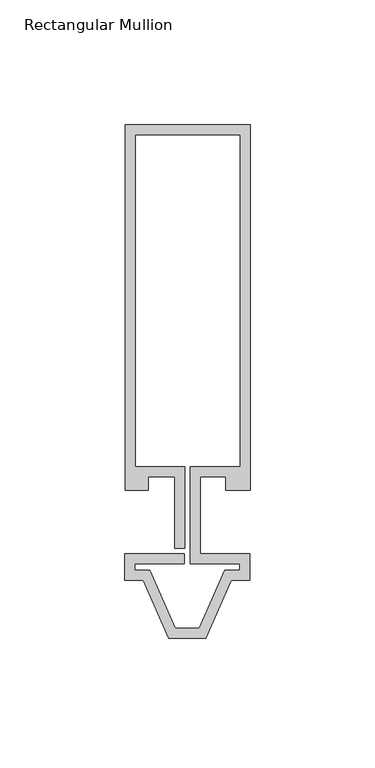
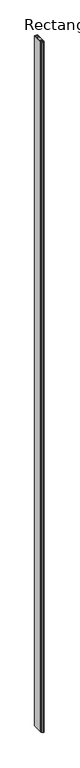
"""IFC4 building model written with IfcOpenShell, lengths in millimetres: member geometry, Rectangular Mullion : Reynaers_CW-50_Transom-Transom_Vertical_146.5mm_Facecap-04."""

from ifc_helpers import new_model, si_unit, frame, origin, place, context, project, spatial, polyline, outline, extrude, source, transform, mapped, element, save


def rectangular_mullion_58ca4ded(model_context):
    return source(origin(), model_context, "Body", "SweptSolid", [
        extrude(outline(polyline([(25.1995941, 12.7331291), (15.499, 12.7331291), (15.499, 18.1331291), (5.2995941, 18.1331291), (5.2995941, -12.7331291), (24.994845, -12.7331291), (24.994845, -23.3331291), (17.6543638, -23.3331291), (7.3695812, -46.4331291), (-7.3695812, -46.4331291), (-17.6543638, -23.3331291), (-24.994845, -23.3331291), (-24.994845, -12.7331291), (-1.0995941, -12.7331291), (-1.0995941, -16.7331291), (-20.994845, -16.7331291), (-20.994845, -19.3331291), (-15.0567334, -19.3331291), (-4.7719508, -42.4331291), (4.7719508, -42.4331291), (15.0567334, -19.3331291), (20.994845, -19.3331291), (20.994845, -16.7331291), (1.2995941, -16.7331291), (1.2995941, 22.1331291), (21.1995941, 22.1331291), (21.1995941, 155.2331291), (-20.8004059, 155.2331291), (-20.8004059, 22.1331291), (-0.9004059, 22.1331291), (-0.9004059, -10.5), (-4.9004059, -10.5), (-4.9004059, 18.1331291), (-15.499, 18.1331291), (-15.499, 12.7331291), (-24.8004059, 12.7331291), (-24.8004059, 159.2331291), (25.1995941, 159.2331291), (25.1995941, 12.7331291)])), frame((0.0, 0.0, -12000.0), z_axis=(0.0, 0.0, 1.0), x_axis=(1.0, 0.0, 0.0)), (0.0, 0.0, 1.0), 12000.0),
    ])


if __name__ == "__main__":
    model = new_model("IFC4")
    model_context = context("Model", 3, world=origin())
    ifc_project = project(units=[si_unit("LENGTHUNIT", "METRE", prefix="MILLI")], contexts=[model_context])
    site = spatial("IfcSite", under=ifc_project)
    building = spatial("IfcBuilding", under=site)
    placement = place(None, origin())
    rectangular_mullion_shape = rectangular_mullion_58ca4ded(model_context)
    element("IfcMember", 1, ObjectType="Rectangular Mullion : Reynaers_CW-50_Transom-Transom_Vertical_146.5mm_Facecap-04", at=placement, inside=building, context=model_context, shape_type="MappedRepresentation", body=[
        mapped(rectangular_mullion_shape, transform((0.0, 0.0, 0.0), x_axis=(1.0, 0.0, 0.0), y_axis=(0.0, 1.0, 0.0), z_axis=(0.0, 0.0, 1.0))),
    ])
    save(model, "model.ifc")
